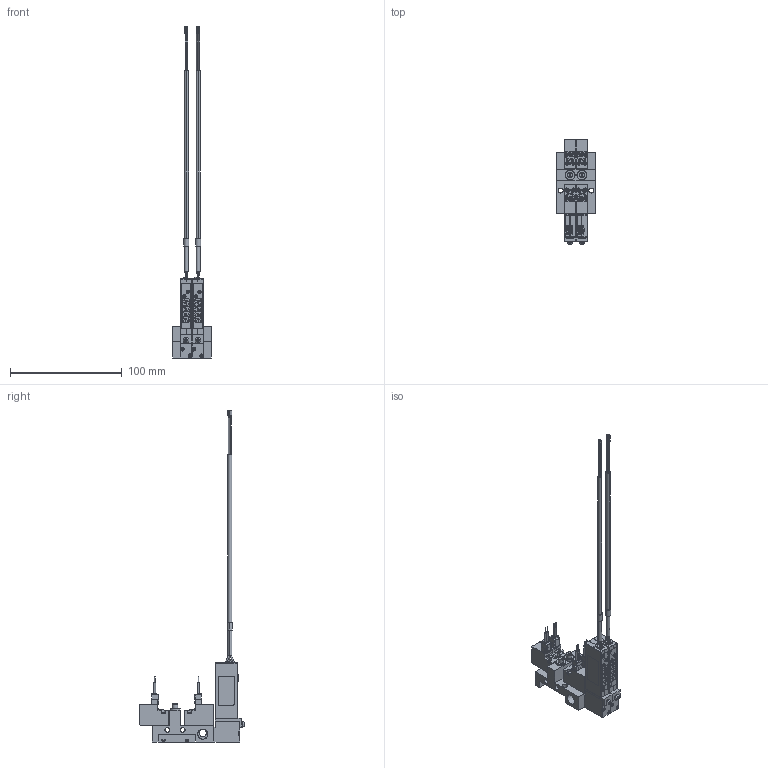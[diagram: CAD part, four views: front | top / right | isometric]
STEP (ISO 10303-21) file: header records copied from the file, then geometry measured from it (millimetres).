
FILE_DESCRIPTION(('STEP AP203'),'1');
FILE_NAME('3-NC-4EZ-M02-V9.stp','2025-05-09T01:00:37',(' '),(' '),'Spatial InterOp 3D',' ',' ');
FILE_SCHEMA(('CONFIG_CONTROL_DESIGN'));
Length unit declared in the file: millimetre
Products named in the file (68): PV1※3-NC-4EZ-M02-V9; BODY; PLATE; NEEDLE; BOLT; SOLENOID VALVE VOLTAGE PV; 42; 45; 48; 51; BRAKET(MPS-V9  PV용)NEW; BRAKET; MPS-V9AC.ics; __1; MPS-V9AC; MSBR-29_1; MSBR-28_1; MSBR-27_1; MSBR-26_1; MSBR-25_1; MSBR-24_1; MSBR-21_1; MSBR-7_1; MSBR-4_1; MSBR-1_1
Assembly tree (67 placements, depth 5):
  PV1※3-NC-4EZ-M02-V9
    BODY
    PLATE
    PLATE
    NEEDLE
    NEEDLE
    BOLT
    BOLT
    BOLT
    BOLT
    BOLT
    BOLT
    SOLENOID VALVE VOLTAGE PV
      42
      45
      48
      51
    SOLENOID VALVE VOLTAGE PV
      42
      45
      48
      51
    SOLENOID VALVE VOLTAGE PV
      42
      45
      48
      51
    SOLENOID VALVE VOLTAGE PV
      42
      45
      48
      51
    BRAKET(MPS-V9  PV용)NEW
      BRAKET
      BOLT
      BOLT
      MPS-V9AC.ics
        __1
        MPS-V9AC
          MSBR-29_1
          MSBR-28_1
          MSBR-27_1
          MSBR-26_1
          MSBR-25_1
          MSBR-24_1
          MSBR-21_1
          MSBR-7_1
          MSBR-4_1
          MSBR-4_1
          MSBR-1_1
    BRAKET(MPS-V9  PV용)NEW
      BRAKET
      BOLT
      BOLT
      MPS-V9AC.ics
        __1
        MPS-V9AC
          MSBR-29_1
          MSBR-28_1
          MSBR-27_1
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Bounding box: 34.5 x 94.29 x 297.25 mm (x, y, z)
Volume: 59589.7 mm3; surface area: 52677.9 mm2
Topology: 55 solids, 73 shells, 2627 faces, 7198 edges, 4877 vertices
Faces by surface type: plane 2004, cylinder 467, torus 66, bspline 38, cone 24, extrusion 20, sphere 8
Full cylindrical faces by diameter (mm): 2 x6, 2.3 x4, 2.5 x2, 3 x10, 4.2 x6, 4.5 x2, 5 x4, 6.5 x1, 8.797 x2, 9 x2
Entity records: 87466 total; most frequent: CARTESIAN_POINT 16761, ORIENTED_EDGE 13976, DIRECTION 13672, EDGE_CURVE 7064, VECTOR 5298, LINE 5278, VERTEX_POINT 4836, AXIS2_PLACEMENT_3D 4187
